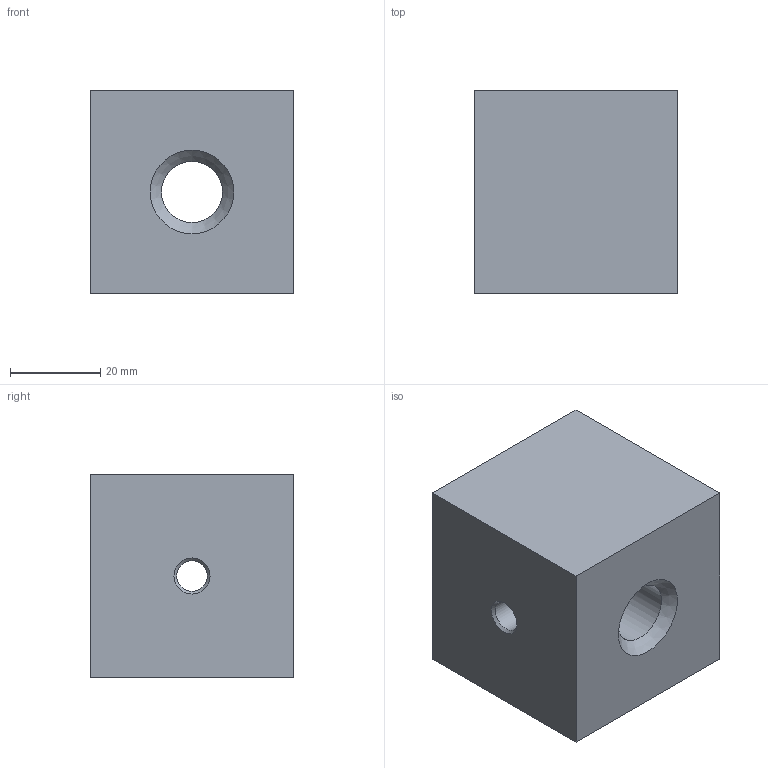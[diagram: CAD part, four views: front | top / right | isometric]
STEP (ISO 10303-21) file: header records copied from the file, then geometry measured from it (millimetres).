
FILE_DESCRIPTION(/* description */ (''),/* implementation_level */ '2;1');
FILE_NAME(/* name */ 'WHEELS-INSERT.28.stp',/* time_stamp */ '2018-05-25T14:30:47+02:00',/* author */ (''),/* organization */ (''),/* preprocessor_version */ 'ST-DEVELOPER v16.7',/* originating_system */ 'SIEMENS PLM Software NX 12.0',/* authorisation */ '');
FILE_SCHEMA (('AP203_CONFIGURATION_CONTROLLED_3D_DESIGN_OF_MECHANICAL_PARTS_AND_ASSEMBLIES_MIM_LF { 1 0 10303 403 2 1 2}'));
Length unit declared in the file: millimetre
Products named in the file (1): turc66A81BAD9zi6
Bounding box: 45 x 45 x 45 mm (x, y, z)
Volume: 80597.7 mm3; surface area: 14539.8 mm2
Topology: 1 solids, 1 shells, 15 faces, 34 edges, 22 vertices
Faces by surface type: plane 7, cylinder 4, cone 4
Full cylindrical faces by diameter (mm): 6.8 x2, 13.5 x1, 20 x1
Entity records: 594 total; most frequent: CARTESIAN_POINT 180, DIRECTION 64, ORIENTED_EDGE 48, EDGE_LOOP 30, FACE_BOUND 28, AXIS2_PLACEMENT_3D 26, EDGE_CURVE 24, VERTEX_POINT 20
